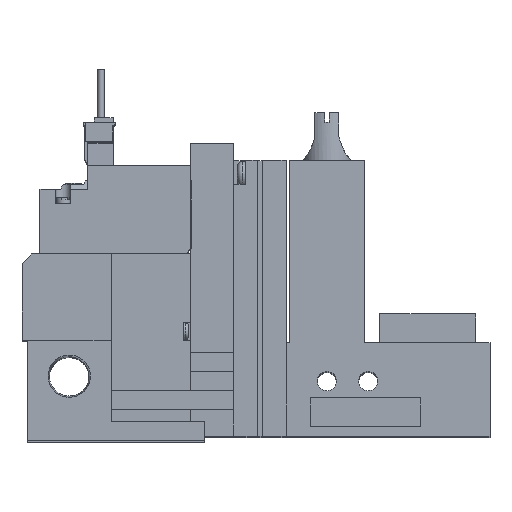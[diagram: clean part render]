
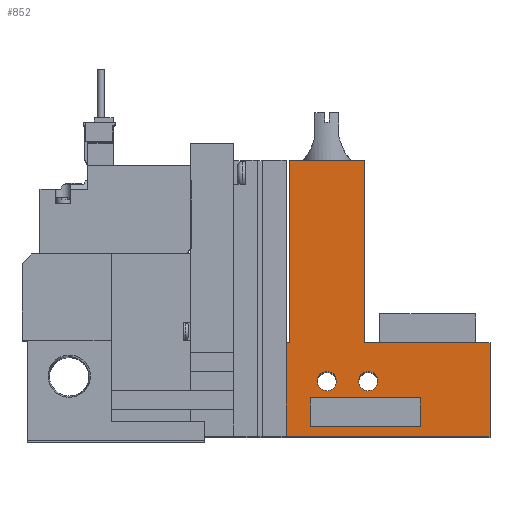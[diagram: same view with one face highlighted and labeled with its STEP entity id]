
A CAD part, top view. The second image highlights one B-rep face of the part: STEP entity #852.
In plain terms, the highlighted planar face has unit normal (0, 0, 1).
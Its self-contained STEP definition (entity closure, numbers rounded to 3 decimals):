
#852=ADVANCED_FACE('',(#1668,#1669,#1670,#1671),#1672,.T.);
#1668=FACE_BOUND('',#2852,.T.);
#1669=FACE_BOUND('',#2853,.T.);
#1670=FACE_BOUND('',#2854,.T.);
#1671=FACE_OUTER_BOUND('',#2855,.T.);
#1672=PLANE('',#2856);
#2852=EDGE_LOOP('',(#5734,#5735,#5736,#5737));
#2853=EDGE_LOOP('',(#5738));
#2854=EDGE_LOOP('',(#5739));
#2855=EDGE_LOOP('',(#5740,#5741,#5742,#5743,#5744,#5745,#5746,#5747));
#2856=AXIS2_PLACEMENT_3D('',#5748,#5749,#5750);
#5734=ORIENTED_EDGE('',*,*,#7989,.T.);
#5735=ORIENTED_EDGE('',*,*,#8146,.T.);
#5736=ORIENTED_EDGE('',*,*,#8085,.T.);
#5737=ORIENTED_EDGE('',*,*,#8147,.T.);
#5738=ORIENTED_EDGE('',*,*,#8139,.T.);
#5739=ORIENTED_EDGE('',*,*,#8148,.T.);
#5740=ORIENTED_EDGE('',*,*,#8149,.F.);
#5741=ORIENTED_EDGE('',*,*,#8133,.T.);
#5742=ORIENTED_EDGE('',*,*,#8107,.T.);
#5743=ORIENTED_EDGE('',*,*,#8150,.T.);
#5744=ORIENTED_EDGE('',*,*,#7947,.T.);
#5745=ORIENTED_EDGE('',*,*,#8138,.T.);
#5746=ORIENTED_EDGE('',*,*,#8151,.T.);
#5747=ORIENTED_EDGE('',*,*,#7984,.T.);
#5748=CARTESIAN_POINT('',(0.0,0.0,10.0));
#5749=DIRECTION('',(0.0,0.0,1.0));
#5750=DIRECTION('',(1.0,0.0,0.0));
#7947=EDGE_CURVE('',#9560,#9558,#9561,.T.);
#7984=EDGE_CURVE('',#9633,#9631,#9634,.T.);
#7989=EDGE_CURVE('',#9636,#9641,#9643,.T.);
#8085=EDGE_CURVE('',#9813,#9815,#9817,.T.);
#8107=EDGE_CURVE('',#9856,#9854,#9857,.T.);
#8133=EDGE_CURVE('',#9901,#9856,#9902,.T.);
#8138=EDGE_CURVE('',#9558,#9906,#9908,.T.);
#8139=EDGE_CURVE('',#9909,#9909,#9910,.T.);
#8146=EDGE_CURVE('',#9641,#9813,#9923,.T.);
#8147=EDGE_CURVE('',#9815,#9636,#9924,.T.);
#8148=EDGE_CURVE('',#9925,#9925,#9926,.T.);
#8149=EDGE_CURVE('',#9901,#9631,#9927,.T.);
#8150=EDGE_CURVE('',#9854,#9560,#9928,.T.);
#8151=EDGE_CURVE('',#9906,#9633,#9929,.T.);
#9558=VERTEX_POINT('',#12196);
#9560=VERTEX_POINT('',#12199);
#9561=LINE('',#12200,#12201);
#9631=VERTEX_POINT('',#12305);
#9633=VERTEX_POINT('',#12308);
#9634=LINE('',#12309,#12310);
#9636=VERTEX_POINT('',#12313);
#9641=VERTEX_POINT('',#12320);
#9643=LINE('',#12323,#12324);
#9813=VERTEX_POINT('',#12626);
#9815=VERTEX_POINT('',#12629);
#9817=LINE('',#12632,#12633);
#9854=VERTEX_POINT('',#12690);
#9856=VERTEX_POINT('',#12693);
#9857=LINE('',#12694,#12695);
#9901=VERTEX_POINT('',#12762);
#9902=LINE('',#12763,#12764);
#9906=VERTEX_POINT('',#12770);
#9908=LINE('',#12773,#12774);
#9909=VERTEX_POINT('',#12775);
#9910=CIRCLE('',#12776,2.0);
#9923=LINE('',#12793,#12794);
#9924=LINE('',#12795,#12796);
#9925=VERTEX_POINT('',#12797);
#9926=CIRCLE('',#12798,2.0);
#9927=LINE('',#12799,#12800);
#9928=LINE('',#12801,#12802);
#9929=LINE('',#12803,#12804);
#12196=CARTESIAN_POINT('',(71.45,57.5,10.0));
#12199=CARTESIAN_POINT('',(71.45,19.5,10.0));
#12200=CARTESIAN_POINT('',(71.45,19.5,10.0));
#12201=VECTOR('',#14716,1.0);
#12305=CARTESIAN_POINT('',(55.1,19.5,10.0));
#12308=CARTESIAN_POINT('',(55.75,19.5,10.0));
#12309=CARTESIAN_POINT('',(55.75,19.5,10.0));
#12310=VECTOR('',#14755,1.0);
#12313=CARTESIAN_POINT('',(60.1,2.0,10.0));
#12320=CARTESIAN_POINT('',(60.1,8.0,10.0));
#12323=CARTESIAN_POINT('',(60.1,0.0,10.0));
#12324=VECTOR('',#14760,1.0);
#12626=CARTESIAN_POINT('',(83.1,8.0,10.0));
#12629=CARTESIAN_POINT('',(83.1,2.0,10.0));
#12632=CARTESIAN_POINT('',(83.1,0.0,10.0));
#12633=VECTOR('',#14880,1.0);
#12690=CARTESIAN_POINT('',(97.6,19.5,10.0));
#12693=CARTESIAN_POINT('',(97.6,0.0,10.0));
#12694=CARTESIAN_POINT('',(97.6,0.0,10.0));
#12695=VECTOR('',#14902,1.0);
#12762=CARTESIAN_POINT('',(55.1,0.0,10.0));
#12763=CARTESIAN_POINT('',(18.6,0.0,10.0));
#12764=VECTOR('',#14932,1.0);
#12770=CARTESIAN_POINT('',(55.75,57.5,10.0));
#12773=CARTESIAN_POINT('',(71.45,57.5,10.0));
#12774=VECTOR('',#14939,1.0);
#12775=CARTESIAN_POINT('',(65.6,11.5,10.0));
#12776=AXIS2_PLACEMENT_3D('',#14940,#14941,#14942);
#12793=CARTESIAN_POINT('',(0.0,8.0,10.0));
#12794=VECTOR('',#14953,1.0);
#12795=CARTESIAN_POINT('',(0.0,2.0,10.0));
#12796=VECTOR('',#14954,1.0);
#12797=CARTESIAN_POINT('',(74.2,11.5,10.0));
#12798=AXIS2_PLACEMENT_3D('',#14955,#14956,#14957);
#12799=CARTESIAN_POINT('',(55.1,0.0,10.0));
#12800=VECTOR('',#14958,1.0);
#12801=CARTESIAN_POINT('',(97.6,19.5,10.0));
#12802=VECTOR('',#14959,1.0);
#12803=CARTESIAN_POINT('',(55.75,57.5,10.0));
#12804=VECTOR('',#14960,1.0);
#14716=DIRECTION('',(0.0,1.0,0.0));
#14755=DIRECTION('',(-1.0,0.0,0.0));
#14760=DIRECTION('',(0.0,1.0,0.0));
#14880=DIRECTION('',(0.0,-1.0,0.0));
#14902=DIRECTION('',(0.0,1.0,0.0));
#14932=DIRECTION('',(1.0,0.0,0.0));
#14939=DIRECTION('',(-1.0,0.0,0.0));
#14940=CARTESIAN_POINT('',(63.6,11.5,10.0));
#14941=DIRECTION('',(0.0,0.0,-1.0));
#14942=DIRECTION('',(1.0,0.0,0.0));
#14953=DIRECTION('',(1.0,0.0,0.0));
#14954=DIRECTION('',(-1.0,0.0,0.0));
#14955=CARTESIAN_POINT('',(72.2,11.5,10.0));
#14956=DIRECTION('',(0.0,0.0,-1.0));
#14957=DIRECTION('',(1.0,0.0,0.0));
#14958=DIRECTION('',(0.0,1.0,0.0));
#14959=DIRECTION('',(-1.0,0.0,0.0));
#14960=DIRECTION('',(0.0,-1.0,0.0));
